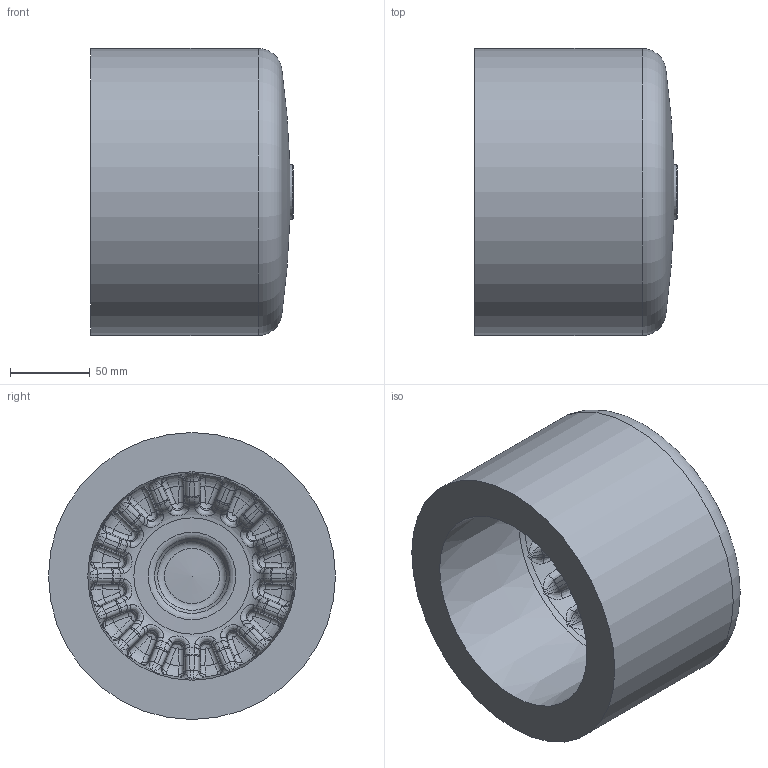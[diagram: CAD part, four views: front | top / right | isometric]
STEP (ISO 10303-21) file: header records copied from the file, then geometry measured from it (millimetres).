
FILE_DESCRIPTION(/* description */ ('Unknown'),/* implementation_level */ '2;1');
FILE_NAME(/* name */ 'CAP180H',/* time_stamp */ '2022-04-01T15:34:49+02:00',/* author */ ('Unknown'),/* organization */ ('Unknown'),/* preprocessor_version */ 'ST-DEVELOPER v18.1',/* originating_system */ 'Solid Edge',/* authorisation */ 'Unknown');
FILE_SCHEMA (('AUTOMOTIVE_DESIGN {1 0 10303 214 3 1 1}'));
Length unit declared in the file: millimetre
Products named in the file (1): CAP180H
Bounding box: 127 x 180 x 180 mm (x, y, z)
Volume: 1859517.9 mm3; surface area: 157870.5 mm2
Topology: 1 solids, 1 shells, 576 faces, 1398 edges, 792 vertices
Faces by surface type: bspline 336, torus 86, plane 50, cylinder 49, cone 37, sphere 18
Full cylindrical faces by diameter (mm): 180 x1
Entity records: 21234 total; most frequent: CARTESIAN_POINT 10510, ORIENTED_EDGE 2684, DIRECTION 1662, EDGE_CURVE 1342, VERTEX_POINT 783, AXIS2_PLACEMENT_3D 783, B_SPLINE_CURVE_WITH_KNOTS 704, FACE_BOUND 591
